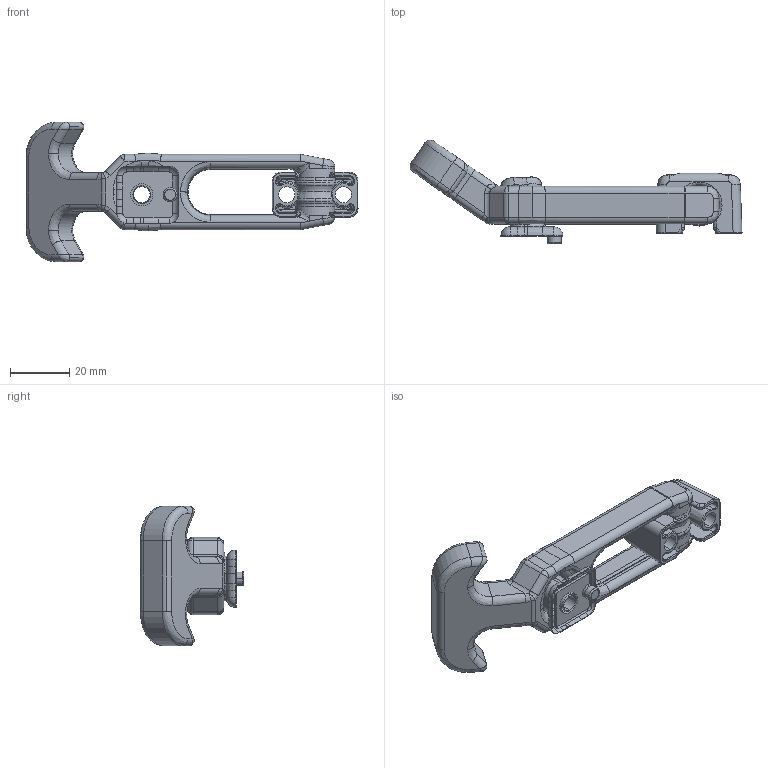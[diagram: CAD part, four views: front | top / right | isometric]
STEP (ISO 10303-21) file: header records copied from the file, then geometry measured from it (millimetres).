
FILE_DESCRIPTION (( 'STEP AP214' ), '1' );
FILE_NAME ('A78-1.STEP', '2017-10-09T07:25:14', ( '微软用户' ), ( '微软中国' ), 'SwSTEP 2.0', 'SolidWorks 2014', '' );
FILE_SCHEMA (( 'AUTOMOTIVE_DESIGN' ));
Length unit declared in the file: millimetre
Products named in the file (4): A78-1-2; A78-1-3; A78-1-1; A78-1
Assembly tree (3 placements, depth 2):
  A78-1
    A78-1-1
    A78-1-3
    A78-1-2
Bounding box: 111.92 x 34.98 x 47 mm (x, y, z)
Volume: 26502.5 mm3; surface area: 14584.3 mm2
Topology: 2 solids, 5 shells, 524 faces, 1303 edges, 763 vertices
Faces by surface type: bspline 231, cylinder 177, plane 88, cone 19, torus 9
Entity records: 34401 total; most frequent: CARTESIAN_POINT 23978, ORIENTED_EDGE 2530, DIRECTION 1636, EDGE_CURVE 1283, VERTEX_POINT 763, AXIS2_PLACEMENT_3D 623, EDGE_LOOP 531, FACE_OUTER_BOUND 524
